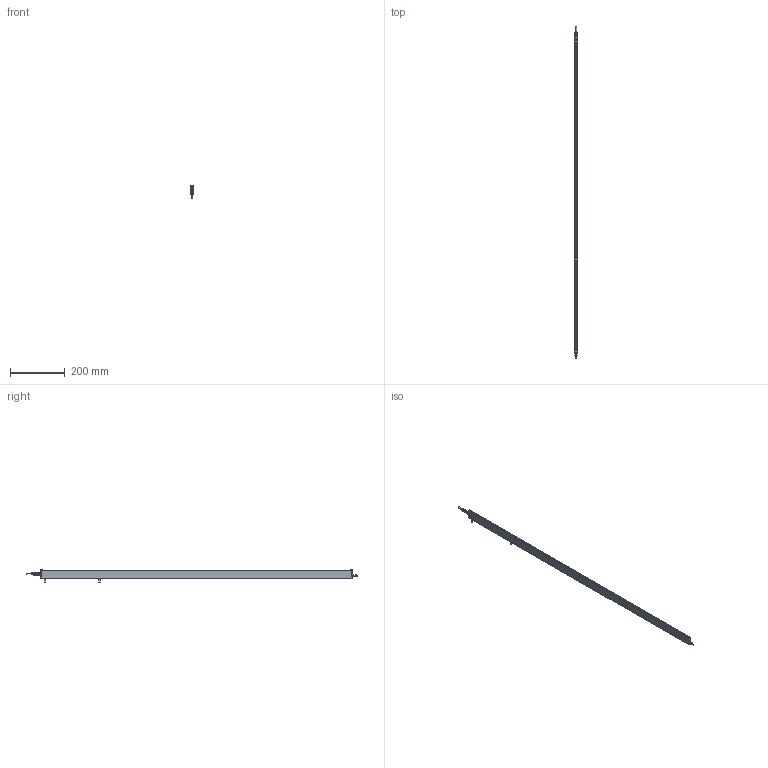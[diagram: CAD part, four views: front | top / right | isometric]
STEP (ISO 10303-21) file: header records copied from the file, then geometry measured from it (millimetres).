
FILE_DESCRIPTION (( 'STEP AP214' ), '1' );
FILE_NAME ('ILG-B-K2-1140mm.STEP', '2017-07-10T12:56:48', ( '' ), ( '' ), 'SwSTEP 2.0', 'SolidWorks 2016', '' );
FILE_SCHEMA (( 'AUTOMOTIVE_DESIGN' ));
Length unit declared in the file: millimetre
Products named in the file (1): ILG-B-K2-1140mm
Bounding box: 9 x 1213.5 x 46.21 mm (x, y, z)
Surface area: 192293.1 mm2 (no closed solid volume)
Topology: 0 solids, 15 shells, 702 faces, 1822 edges, 1157 vertices
Faces by surface type: cylinder 287, plane 266, cone 99, bspline 32, torus 18
Entity records: 31388 total; most frequent: CARTESIAN_POINT 6631, ORIENTED_EDGE 3597, DIRECTION 3488, EDGE_CURVE 1806, AXIS2_PLACEMENT_3D 1342, VERTEX_POINT 1157, LINE 804, VECTOR 804
